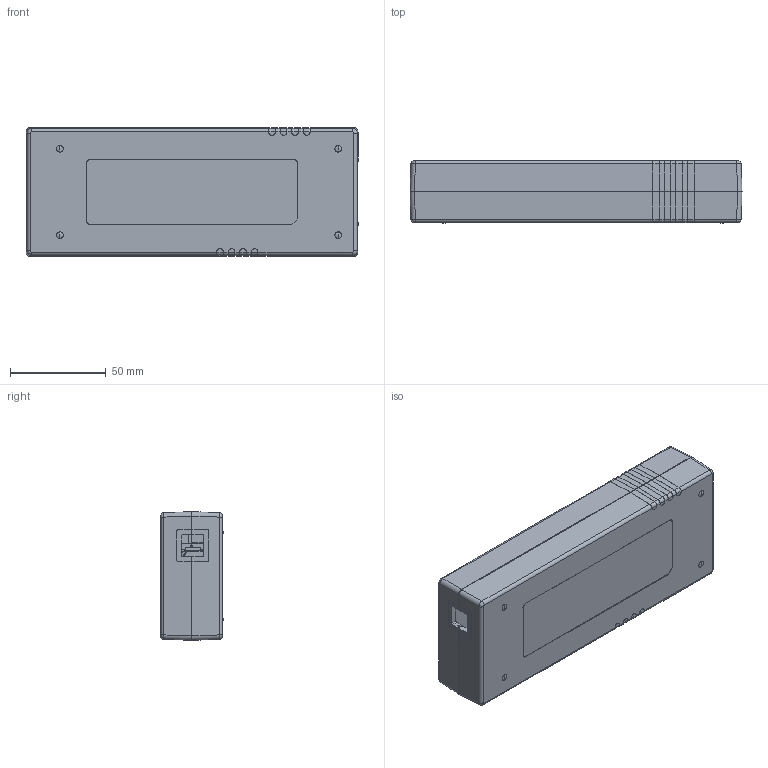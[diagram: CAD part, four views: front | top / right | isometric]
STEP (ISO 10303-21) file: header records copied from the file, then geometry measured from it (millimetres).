
FILE_DESCRIPTION (( 'STEP AP214' ), '1' );
FILE_NAME ('AQM250PSxx_updated.STEP', '2022-05-24T05:24:05', ( '' ), ( '' ), 'SwSTEP 2.0', 'SolidWorks 2020', '' );
FILE_SCHEMA (( 'AUTOMOTIVE_DESIGN' ));
Length unit declared in the file: millimetre
Products named in the file (14): TU301-SP-SR015_18^TU-301-SP-SRC3015-P7J2_ASM_3_ASM_TECX_C14_BACKUP_AQM_AQM250PSxx(2)_AQM250PSxx; SRF3_4^TU-301-SP-SRC3015-P7J2_ASM_3_ASM_TECX_C14_BACKUP_AQM_AQM250PSxx(2)_AQM250PSxx; MANIFOLD_SOLID_BREP_12909^TU301-P7_9_ASM_TU-301-SP-SRC3015-P7J2_ASM_3_ASM_TECX_C14_BACKUP_AQM_AQM250PSxx(2)_AQM250PSxx; PRT0022_2^TU-301-SP-SRC3015-P7J2_ASM_3_ASM_TECX_C14_BACKUP_AQM_AQM250PSxx(2)_AQM250PSxx; AQM250PS-TOP-C14^AQM250PSxx(2)_AQM250PSxx; GP-TU301-Y5S_3^TU-301-SP-SRC3015-P7J2_ASM_3_ASM_TECX_C14_BACKUP_AQM_AQM250PSxx(2)_AQM250PSxx; TECX_C14_BACKUP_AQM^AQM250PSxx(2)_AQM250PSxx; TU-301-SP-SRC3015-P7J2_ASM_3_ASM^TECX_C14_BACKUP_AQM_AQM250PSxx(2)_AQM250PSxx; GP-TU301-Y5L_3^TU-301-SP-SRC3015-P7J2_ASM_3_ASM_TECX_C14_BACKUP_AQM_AQM250PSxx(2)_AQM250PSxx; TU301-P7_9_ASM^TU-301-SP-SRC3015-P7J2_ASM_3_ASM_TECX_C14_BACKUP_AQM_AQM250PSxx(2)_AQM250PSxx; MANIFOLD_SOLID_BREP_16574^TU301-P7_9_ASM_TU-301-SP-SRC3015-P7J2_ASM_3_ASM_TECX_C14_BACKUP_AQM_AQM250PSxx(2)_AQM250PSxx; AQM250PSxx_updated; AQM250PSxx(2)^AQM250PSxx; AQM250PS-BOT-C14^AQM250PSxx(2)_AQM250PSxx
Assembly tree (14 placements, depth 6):
  AQM250PSxx_updated
    AQM250PSxx(2)^AQM250PSxx
      TECX_C14_BACKUP_AQM^AQM250PSxx(2)_AQM250PSxx
        TU-301-SP-SRC3015-P7J2_ASM_3_ASM^TECX_C14_BACKUP_AQM_AQM250PSxx(2)_AQM250PSxx
          TU301-P7_9_ASM^TU-301-SP-SRC3015-P7J2_ASM_3_ASM_TECX_C14_BACKUP_AQM_AQM250PSxx(2)_AQM250PSxx
            MANIFOLD_SOLID_BREP_12909^TU301-P7_9_ASM_TU-301-SP-SRC3015-P7J2_ASM_3_ASM_TECX_C14_BACKUP_AQM_AQM250PSxx(2)_AQM250PSxx
            MANIFOLD_SOLID_BREP_16574^TU301-P7_9_ASM_TU-301-SP-SRC3015-P7J2_ASM_3_ASM_TECX_C14_BACKUP_AQM_AQM250PSxx(2)_AQM250PSxx
          TU301-SP-SR015_18^TU-301-SP-SRC3015-P7J2_ASM_3_ASM_TECX_C14_BACKUP_AQM_AQM250PSxx(2)_AQM250PSxx
          SRF3_4^TU-301-SP-SRC3015-P7J2_ASM_3_ASM_TECX_C14_BACKUP_AQM_AQM250PSxx(2)_AQM250PSxx
          GP-TU301-Y5L_3^TU-301-SP-SRC3015-P7J2_ASM_3_ASM_TECX_C14_BACKUP_AQM_AQM250PSxx(2)_AQM250PSxx
          GP-TU301-Y5S_3^TU-301-SP-SRC3015-P7J2_ASM_3_ASM_TECX_C14_BACKUP_AQM_AQM250PSxx(2)_AQM250PSxx  x2
          PRT0022_2^TU-301-SP-SRC3015-P7J2_ASM_3_ASM_TECX_C14_BACKUP_AQM_AQM250PSxx(2)_AQM250PSxx
      AQM250PS-BOT-C14^AQM250PSxx(2)_AQM250PSxx
      AQM250PS-TOP-C14^AQM250PSxx(2)_AQM250PSxx
Bounding box: 173 x 32.5 x 67 mm (x, y, z)
Volume: 70934.1 mm3; surface area: 82778.7 mm2
Topology: 9 solids, 20 shells, 1196 faces, 3135 edges, 1990 vertices
Faces by surface type: plane 711, cylinder 299, bspline 119, torus 40, sphere 16, cone 11
Entity records: 48104 total; most frequent: CARTESIAN_POINT 20614, ORIENTED_EDGE 6090, DIRECTION 4773, EDGE_CURVE 3067, VECTOR 1961, LINE 1961, VERTEX_POINT 1950, AXIS2_PLACEMENT_3D 1406
